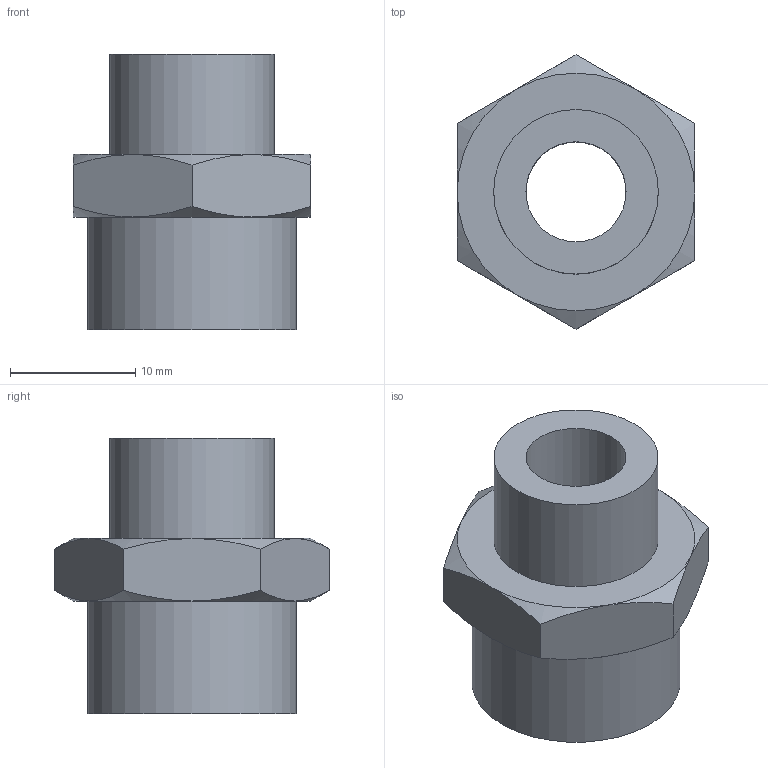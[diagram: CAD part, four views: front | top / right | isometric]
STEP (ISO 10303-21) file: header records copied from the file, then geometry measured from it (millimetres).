
FILE_DESCRIPTION(/* description */ (''),/* implementation_level */ '2;1');
FILE_NAME(/* name */ 'C:\PNX_VAULTFOLDER\Area Tecnica\Disegni\VARIE-3D\Componenti\raccordi\101####\1011438.stp',/* time_stamp */ '2019-09-13T10:22:47+02:00',/* author */ ('maniean1'),/* organization */ ('Pneumax S.p.A.'),/* preprocessor_version */ 'ST-DEVELOPER v17',/* originating_system */ 'Autodesk Inventor 2019',/* authorisation */ '');
FILE_SCHEMA (('AUTOMOTIVE_DESIGN { 1 0 10303 214 3 1 1 }'));
Length unit declared in the file: millimetre
Products named in the file (1): 1011438
Bounding box: 19 x 21.94 x 22 mm (x, y, z)
Volume: 3492.5 mm3; surface area: 2179.2 mm2
Topology: 1 solids, 1 shells, 25 faces, 56 edges, 35 vertices
Faces by surface type: cone 12, plane 10, cylinder 3
Full cylindrical faces by diameter (mm): 8 x1, 13.157 x1, 16.662 x1
Entity records: 741 total; most frequent: CARTESIAN_POINT 165, ORIENTED_EDGE 112, DIRECTION 107, EDGE_CURVE 56, AXIS2_PLACEMENT_3D 49, VERTEX_POINT 35, EDGE_LOOP 29, STYLED_ITEM 26
